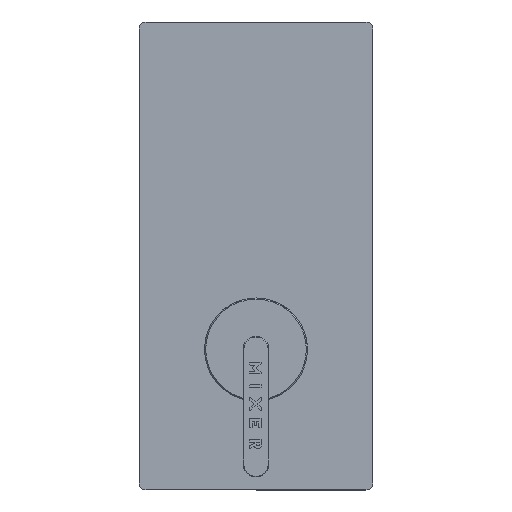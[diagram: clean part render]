
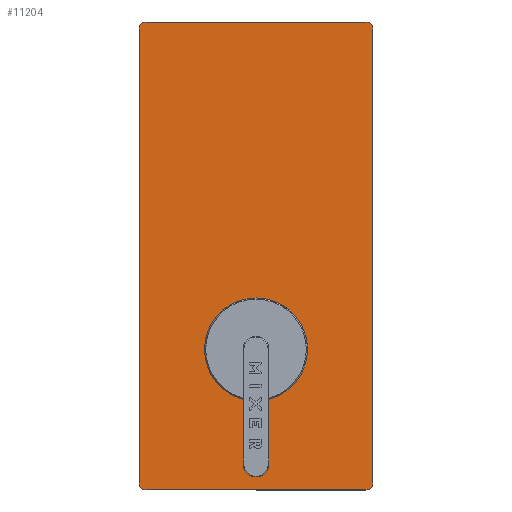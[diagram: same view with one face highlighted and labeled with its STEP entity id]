
A CAD part, top view. The second image highlights one B-rep face of the part: STEP entity #11204.
In plain terms, the highlighted planar face has unit normal (0, 0, 1).
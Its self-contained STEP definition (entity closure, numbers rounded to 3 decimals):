
#162 = ORIENTED_EDGE ( 'NONE', *, *, #16178, .T. ) ;
#163 = CARTESIAN_POINT ( 'NONE',  ( 0., 0., 2. ) ) ;
#316 = EDGE_LOOP ( 'NONE', ( #3297, #11220 ) ) ;
#367 = CARTESIAN_POINT ( 'NONE',  ( 100., 47., 2. ) ) ;
#459 = EDGE_CURVE ( 'NONE', #19262, #17921, #3135, .T. ) ;
#599 = VECTOR ( 'NONE', #14702, 1000. ) ;
#969 = ORIENTED_EDGE ( 'NONE', *, *, #459, .T. ) ;
#1472 = DIRECTION ( 'NONE',  ( 0., 1., 0. ) ) ;
#1578 = AXIS2_PLACEMENT_3D ( 'NONE', #4700, #14069, #17553 ) ;
#1633 = ORIENTED_EDGE ( 'NONE', *, *, #6518, .T. ) ;
#2387 = CARTESIAN_POINT ( 'NONE',  ( -40., 0., 2. ) ) ;
#2839 = VERTEX_POINT ( 'NONE', #12489 ) ;
#3039 = DIRECTION ( 'NONE',  ( 0., 0., 1. ) ) ;
#3055 = EDGE_CURVE ( 'NONE', #14246, #16113, #5111, .T. ) ;
#3135 = LINE ( 'NONE', #4391, #5543 ) ;
#3297 = ORIENTED_EDGE ( 'NONE', *, *, #20806, .F. ) ;
#3506 = FACE_OUTER_BOUND ( 'NONE', #7327, .T. ) ;
#4003 = EDGE_CURVE ( 'NONE', #16113, #9397, #15610, .T. ) ;
#4391 = CARTESIAN_POINT ( 'NONE',  ( 100., -50., 2. ) ) ;
#4700 = CARTESIAN_POINT ( 'NONE',  ( 97., 47., 2. ) ) ;
#4721 = VECTOR ( 'NONE', #12154, 1000. ) ;
#4763 = AXIS2_PLACEMENT_3D ( 'NONE', #163, #4773, #11199 ) ;
#4773 = DIRECTION ( 'NONE',  ( 0., 0., 1. ) ) ;
#4972 = CIRCLE ( 'NONE', #8306, 20.7 ) ;
#5075 = AXIS2_PLACEMENT_3D ( 'NONE', #14489, #14914, #19487 ) ;
#5111 = LINE ( 'NONE', #16292, #599 ) ;
#5177 = AXIS2_PLACEMENT_3D ( 'NONE', #19300, #13134, #14825 ) ;
#5230 = EDGE_CURVE ( 'NONE', #11589, #9755, #17875, .T. ) ;
#5543 = VECTOR ( 'NONE', #1472, 1000. ) ;
#6518 = EDGE_CURVE ( 'NONE', #6972, #19262, #11563, .T. ) ;
#6570 = DIRECTION ( 'NONE',  ( -1., 0., 0. ) ) ;
#6783 = VERTEX_POINT ( 'NONE', #13551 ) ;
#6972 = VERTEX_POINT ( 'NONE', #14707 ) ;
#7134 = EDGE_CURVE ( 'NONE', #6783, #2839, #18341, .T. ) ;
#7327 = EDGE_LOOP ( 'NONE', ( #14828, #9919, #15474, #7817, #16722, #1633, #969, #162 ) ) ;
#7817 = ORIENTED_EDGE ( 'NONE', *, *, #4003, .T. ) ;
#8154 = DIRECTION ( 'NONE',  ( 0., 0., 1. ) ) ;
#8215 = AXIS2_PLACEMENT_3D ( 'NONE', #2387, #13626, #17202 ) ;
#8306 = AXIS2_PLACEMENT_3D ( 'NONE', #16388, #8154, #13210 ) ;
#9072 = EDGE_CURVE ( 'NONE', #9755, #14246, #19247, .T. ) ;
#9156 = VECTOR ( 'NONE', #6570, 1000. ) ;
#9397 = VERTEX_POINT ( 'NONE', #14064 ) ;
#9539 = CARTESIAN_POINT ( 'NONE',  ( -97., -47., 2. ) ) ;
#9755 = VERTEX_POINT ( 'NONE', #16989 ) ;
#9919 = ORIENTED_EDGE ( 'NONE', *, *, #9072, .T. ) ;
#11199 = DIRECTION ( 'NONE',  ( 1., 0., 0. ) ) ;
#11204 = ADVANCED_FACE ( 'NONE', ( #3506, #19231 ), #14441, .T. ) ;
#11220 = ORIENTED_EDGE ( 'NONE', *, *, #7134, .F. ) ;
#11563 = CIRCLE ( 'NONE', #5177, 3. ) ;
#11589 = VERTEX_POINT ( 'NONE', #16331 ) ;
#12154 = DIRECTION ( 'NONE',  ( 1., 0., 0. ) ) ;
#12489 = CARTESIAN_POINT ( 'NONE',  ( -60.7, 0., 2. ) ) ;
#12560 = CARTESIAN_POINT ( 'NONE',  ( -100., 47., 2. ) ) ;
#12672 = EDGE_CURVE ( 'NONE', #9397, #6972, #13951, .T. ) ;
#13134 = DIRECTION ( 'NONE',  ( 0., 0., 1. ) ) ;
#13210 = DIRECTION ( 'NONE',  ( 1., 0., 0. ) ) ;
#13551 = CARTESIAN_POINT ( 'NONE',  ( -19.3, 0., 2. ) ) ;
#13626 = DIRECTION ( 'NONE',  ( 0., 0., 1. ) ) ;
#13855 = CARTESIAN_POINT ( 'NONE',  ( -100., -47., 2. ) ) ;
#13951 = LINE ( 'NONE', #14062, #4721 ) ;
#14062 = CARTESIAN_POINT ( 'NONE',  ( 100., -50., 2. ) ) ;
#14064 = CARTESIAN_POINT ( 'NONE',  ( -97., -50., 2. ) ) ;
#14069 = DIRECTION ( 'NONE',  ( 0., 0., 1. ) ) ;
#14246 = VERTEX_POINT ( 'NONE', #12560 ) ;
#14441 = PLANE ( 'NONE',  #4763 ) ;
#14489 = CARTESIAN_POINT ( 'NONE',  ( -97., 47., 2. ) ) ;
#14588 = AXIS2_PLACEMENT_3D ( 'NONE', #9539, #3039, #15874 ) ;
#14702 = DIRECTION ( 'NONE',  ( 0., -1., 0. ) ) ;
#14707 = CARTESIAN_POINT ( 'NONE',  ( 97., -50., 2. ) ) ;
#14825 = DIRECTION ( 'NONE',  ( 1., 0., 0. ) ) ;
#14828 = ORIENTED_EDGE ( 'NONE', *, *, #5230, .T. ) ;
#14914 = DIRECTION ( 'NONE',  ( 0., 0., 1. ) ) ;
#15474 = ORIENTED_EDGE ( 'NONE', *, *, #3055, .T. ) ;
#15479 = CARTESIAN_POINT ( 'NONE',  ( 100., 50., 2. ) ) ;
#15610 = CIRCLE ( 'NONE', #14588, 3. ) ;
#15874 = DIRECTION ( 'NONE',  ( 1., 0., 0. ) ) ;
#16018 = CIRCLE ( 'NONE', #1578, 3. ) ;
#16113 = VERTEX_POINT ( 'NONE', #13855 ) ;
#16178 = EDGE_CURVE ( 'NONE', #17921, #11589, #16018, .T. ) ;
#16292 = CARTESIAN_POINT ( 'NONE',  ( -100., -50., 2. ) ) ;
#16331 = CARTESIAN_POINT ( 'NONE',  ( 97., 50., 2. ) ) ;
#16388 = CARTESIAN_POINT ( 'NONE',  ( -40., 0., 2. ) ) ;
#16722 = ORIENTED_EDGE ( 'NONE', *, *, #12672, .T. ) ;
#16989 = CARTESIAN_POINT ( 'NONE',  ( -97., 50., 2. ) ) ;
#17202 = DIRECTION ( 'NONE',  ( 1., 0., 0. ) ) ;
#17553 = DIRECTION ( 'NONE',  ( 1., 0., 0. ) ) ;
#17875 = LINE ( 'NONE', #15479, #9156 ) ;
#17921 = VERTEX_POINT ( 'NONE', #367 ) ;
#17953 = CARTESIAN_POINT ( 'NONE',  ( 100., -47., 2. ) ) ;
#18341 = CIRCLE ( 'NONE', #8215, 20.7 ) ;
#19231 = FACE_BOUND ( 'NONE', #316, .T. ) ;
#19247 = CIRCLE ( 'NONE', #5075, 3. ) ;
#19262 = VERTEX_POINT ( 'NONE', #17953 ) ;
#19300 = CARTESIAN_POINT ( 'NONE',  ( 97., -47., 2. ) ) ;
#19487 = DIRECTION ( 'NONE',  ( 1., 0., 0. ) ) ;
#20806 = EDGE_CURVE ( 'NONE', #2839, #6783, #4972, .T. ) ;
